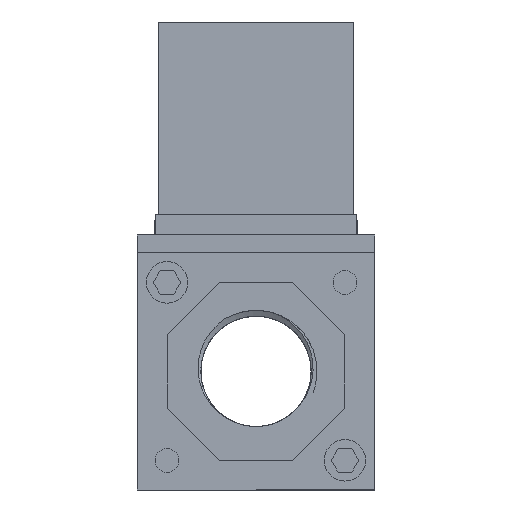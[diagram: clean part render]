
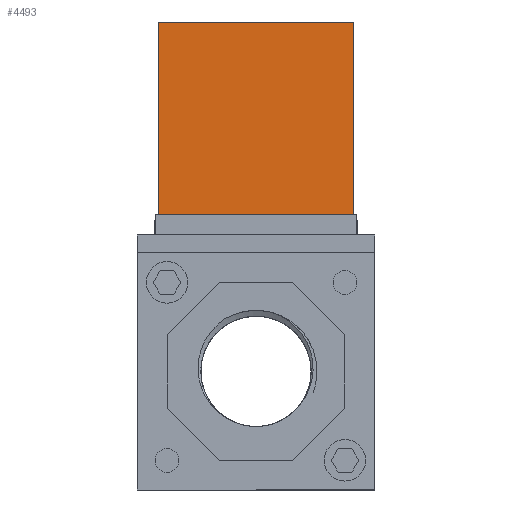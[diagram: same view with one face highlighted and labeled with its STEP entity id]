
A CAD part, left-side view. The second image highlights one B-rep face of the part: STEP entity #4493.
In plain terms, the highlighted planar face has unit normal (-1, 0, 0) as drawn and (1, 0, 0) by its records, which use the part's own axes.
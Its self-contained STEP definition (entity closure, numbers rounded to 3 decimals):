
#63 = CARTESIAN_POINT ( 'NONE',  ( 57., 32.4, 0. ) ) ;
#77 = DIRECTION ( 'NONE',  ( 0., 1., 0. ) ) ;
#204 = EDGE_CURVE ( 'NONE', #461, #9855, #13660, .T. ) ;
#461 = VERTEX_POINT ( 'NONE', #15891 ) ;
#750 = VERTEX_POINT ( 'NONE', #3461 ) ;
#2139 = PLANE ( 'NONE',  #5180 ) ;
#2259 = VERTEX_POINT ( 'NONE', #17934 ) ;
#2349 = VECTOR ( 'NONE', #4177, 1000. ) ;
#3461 = CARTESIAN_POINT ( 'NONE',  ( 57., 0., 0. ) ) ;
#4177 = DIRECTION ( 'NONE',  ( 0., 1., 0. ) ) ;
#4493 = ADVANCED_FACE ( 'NONE', ( #9627 ), #2139, .F. ) ;
#5180 = AXIS2_PLACEMENT_3D ( 'NONE', #6658, #12667, #14635 ) ;
#6658 = CARTESIAN_POINT ( 'NONE',  ( 57., 0., 33. ) ) ;
#6719 = EDGE_CURVE ( 'NONE', #750, #9855, #9040, .T. ) ;
#7371 = CARTESIAN_POINT ( 'NONE',  ( 57., 0., 0. ) ) ;
#7768 = ORIENTED_EDGE ( 'NONE', *, *, #6719, .T. ) ;
#8930 = CARTESIAN_POINT ( 'NONE',  ( 57., 32.4, 33. ) ) ;
#9040 = LINE ( 'NONE', #7371, #17494 ) ;
#9204 = CARTESIAN_POINT ( 'NONE',  ( 57., 0., 33. ) ) ;
#9492 = DIRECTION ( 'NONE',  ( 0., 0., -1. ) ) ;
#9627 = FACE_OUTER_BOUND ( 'NONE', #17199, .T. ) ;
#9855 = VERTEX_POINT ( 'NONE', #63 ) ;
#10022 = EDGE_CURVE ( 'NONE', #2259, #461, #14218, .T. ) ;
#12667 = DIRECTION ( 'NONE',  ( -1., 0., 0. ) ) ;
#12836 = ORIENTED_EDGE ( 'NONE', *, *, #14543, .T. ) ;
#13144 = CARTESIAN_POINT ( 'NONE',  ( 57., 0., 33. ) ) ;
#13337 = VECTOR ( 'NONE', #18184, 1000. ) ;
#13660 = LINE ( 'NONE', #8930, #13337 ) ;
#14218 = LINE ( 'NONE', #13144, #2349 ) ;
#14543 = EDGE_CURVE ( 'NONE', #2259, #750, #15202, .T. ) ;
#14635 = DIRECTION ( 'NONE',  ( 0., 0., 1. ) ) ;
#15202 = LINE ( 'NONE', #9204, #17002 ) ;
#15257 = ORIENTED_EDGE ( 'NONE', *, *, #10022, .F. ) ;
#15487 = ORIENTED_EDGE ( 'NONE', *, *, #204, .F. ) ;
#15891 = CARTESIAN_POINT ( 'NONE',  ( 57., 32.4, 33. ) ) ;
#17002 = VECTOR ( 'NONE', #9492, 1000. ) ;
#17199 = EDGE_LOOP ( 'NONE', ( #7768, #15487, #15257, #12836 ) ) ;
#17494 = VECTOR ( 'NONE', #77, 1000. ) ;
#17934 = CARTESIAN_POINT ( 'NONE',  ( 57., 0., 33. ) ) ;
#18184 = DIRECTION ( 'NONE',  ( 0., 0., -1. ) ) ;
